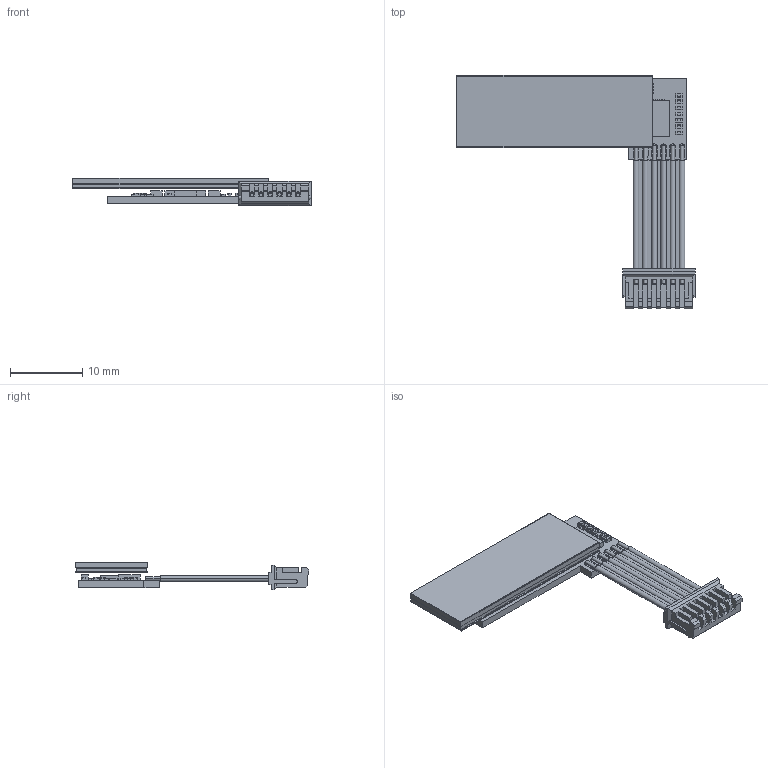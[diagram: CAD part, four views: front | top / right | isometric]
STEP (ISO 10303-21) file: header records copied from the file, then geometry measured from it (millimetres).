
FILE_DESCRIPTION((''),'2;1');
FILE_NAME('ASM0001_ASM','2026-09-02T',('guxinfeng'),(''),'PRO/ENGINEER BY PARAMETRIC TECHNOLOGY CORPORATION, 2012480','PRO/ENGINEER BY PARAMETRIC TECHNOLOGY CORPORATION, 2012480','');
FILE_SCHEMA(('CONFIG_CONTROL_DESIGN'));
Length unit declared in the file: millimetre
Products named in the file (103): OPEN_CASCADE_STEP_TRANSLATO-174; ASM0002_ASM_1_ASM; MID_BODY-539_1; OPEN_CASCADE_STEP_TRANSLATO-725; TERMINAL-715_ASM_1_ASM; MARK-1037_1; 6188215104_ASM_1_ASM; ASM0003_ASM_1_ASM; OPEN_CASCADE_STEP_TRANSLAT-1277; OPEN_CASCADE_STEP_TRANSLAT-1750; TERMINAL-1263_ASM_1_ASM; OPEN_CASCADE_STEP_TRANSLAT-2246; MID_BODY-2236_ASM_1_ASM; 6188215344_ASM_1_ASM; ASM0004_ASM_1_ASM; PRT0006_1; ASM0005_ASM_1_ASM; PRBS_0_75MM_1; ASM0006_ASM_1_ASM; ASM0007_ASM_1_ASM; ASM0008_ASM_1_ASM; ASM0009_ASM_1_ASM; ASM0010_ASM_1_ASM; OPEN_CASCADE_STEP_TRANSLAT-5811; OPEN_CASCADE_STEP_TRANSLAT-6284; TERMINAL-5797_ASM_1_ASM; OPEN_CASCADE_STEP_TRANSLAT-6780; MID_BODY-6770_ASM_1_ASM; 6188214864_ASM_1_ASM; ASM0011_ASM_1_ASM; MID_BODY-7153_1; OPEN_CASCADE_STEP_TRANSLAT-7339; TERMINAL-7329_ASM_1_ASM; MARK-7651_1; 6188213424_ASM_1_ASM; ASM0012_ASM_1_ASM; OPEN_CASCADE_STEP_TRANSLAT-7891; OPEN_CASCADE_STEP_TRANSLAT-8364; TERMINAL-7877_ASM_1_ASM; OPEN_CASCADE_STEP_TRANSLAT-8860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
Assembly tree (127 placements, depth 7):
  ASM0001_ASM
    PCB_ELS-005-010_ASP_V1_0_ASM_6_ASM
      ASM0001_ASM_2_ASM
        ASM0002_ASM_1_ASM
          OPEN_CASCADE_STEP_TRANSLATO-174
        ASM0003_ASM_1_ASM
          6188215104_ASM_1_ASM
            MID_BODY-539_1
            TERMINAL-715_ASM_1_ASM  x2
              OPEN_CASCADE_STEP_TRANSLATO-725
            MARK-1037_1
        ASM0004_ASM_1_ASM
          6188215344_ASM_1_ASM
            TERMINAL-1263_ASM_1_ASM
              OPEN_CASCADE_STEP_TRANSLAT-1277
              OPEN_CASCADE_STEP_TRANSLAT-1750
            MID_BODY-2236_ASM_1_ASM
              OPEN_CASCADE_STEP_TRANSLAT-2246
        ASM0005_ASM_1_ASM
          PRT0006_1
        ASM0006_ASM_1_ASM
          PRBS_0_75MM_1
        ASM0007_ASM_1_ASM
          PRBS_0_75MM_1
        ASM0008_ASM_1_ASM
          PRBS_0_75MM_1
        ASM0009_ASM_1_ASM
          PRBS_0_75MM_1
        ASM0010_ASM_1_ASM
          PRBS_0_75MM_1
        ASM0011_ASM_1_ASM
          6188214864_ASM_1_ASM
            TERMINAL-5797_ASM_1_ASM
              OPEN_CASCADE_STEP_TRANSLAT-5811
              OPEN_CASCADE_STEP_TRANSLAT-6284
            MID_BODY-6770_ASM_1_ASM
              OPEN_CASCADE_STEP_TRANSLAT-6780
        ASM0012_ASM_1_ASM
          6188213424_ASM_1_ASM
            MID_BODY-7153_1
            TERMINAL-7329_ASM_1_ASM  x2
              OPEN_CASCADE_STEP_TRANSLAT-7339
            MARK-7651_1
        ASM0013_ASM_1_ASM
          6188214784_ASM_1_ASM
            TERMINAL-7877_ASM_1_ASM
              OPEN_CASCADE_STEP_TRANSLAT-7891
              OPEN_CASCADE_STEP_TRANSLAT-8364
            MID_BODY-8850_ASM_1_ASM
              OPEN_CASCADE_STEP_TRANSLAT-8860
        ASM0014_ASM_1_ASM
          6188214784_ASM_1_ASM
            TERMINAL-7877_ASM_1_ASM
              OPEN_CASCADE_STEP_TRANSLAT-7891
              OPEN_CASCADE_STEP_TRANSLAT-8364
            MID_BODY-8850_ASM_1_ASM
              OPEN_CASCADE_STEP_TRANSLAT-8860
        ASM0015_ASM_1_ASM
          6188214784_ASM_1_ASM
            TERMINAL-7877_ASM_1_ASM
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Bounding box: 32.89 x 32.27 x 3.81 mm (x, y, z)
Volume: 844.9 mm3; surface area: 4746.9 mm2
Topology: 106 solids, 106 shells, 2044 faces, 5253 edges, 3320 vertices
Faces by surface type: plane 1485, cylinder 439, sphere 120
Entity records: 42677 total; most frequent: CARTESIAN_POINT 6123, DIRECTION 6097, ORIENTED_EDGE 5666, EDGE_CURVE 2833, VECTOR 2421, LINE 2421, VERTEX_POINT 1864, PRESENTATION_STYLE_ASSIGNMENT 1854
